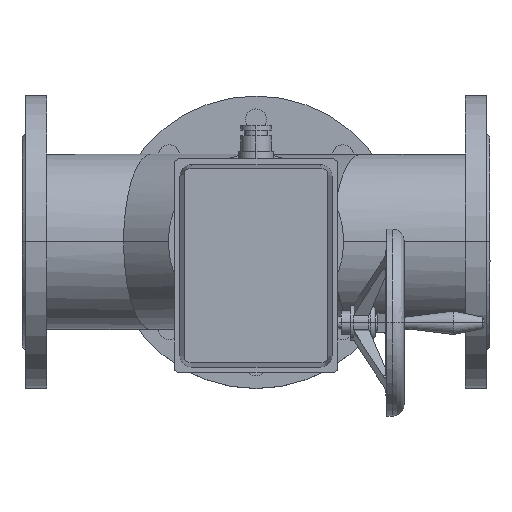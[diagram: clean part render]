
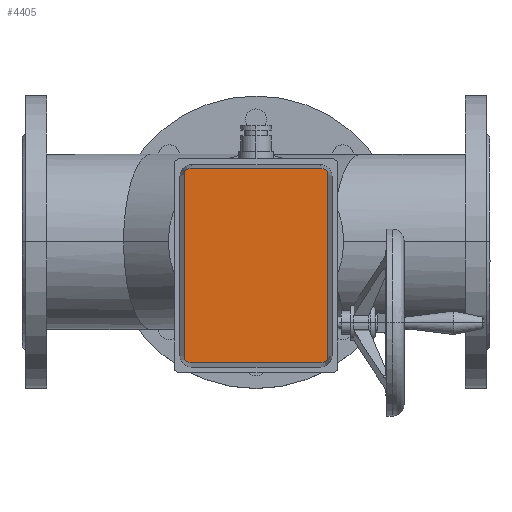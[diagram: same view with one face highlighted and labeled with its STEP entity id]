
A CAD part, top view. The second image highlights one B-rep face of the part: STEP entity #4405.
In plain terms, the highlighted planar face has unit normal (0, 0, 1).
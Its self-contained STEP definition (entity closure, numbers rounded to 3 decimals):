
#306=LINE('',#7735,#540);
#307=LINE('',#7739,#541);
#308=LINE('',#7743,#542);
#309=LINE('',#7747,#543);
#540=VECTOR('',#5903,304.8);
#541=VECTOR('',#5906,304.8);
#542=VECTOR('',#5909,304.8);
#543=VECTOR('',#5912,304.8);
#991=FACE_OUTER_BOUND('',#1305,.T.);
#1305=EDGE_LOOP('',(#3361,#3362,#3363,#3364,#3365,#3366,#3367,#3368));
#1631=CIRCLE('',#4880,5.);
#1632=CIRCLE('',#4881,5.);
#1633=CIRCLE('',#4882,5.);
#1634=CIRCLE('',#4883,5.);
#1984=VERTEX_POINT('',#7733);
#1985=VERTEX_POINT('',#7734);
#1986=VERTEX_POINT('',#7736);
#1987=VERTEX_POINT('',#7738);
#1988=VERTEX_POINT('',#7740);
#1989=VERTEX_POINT('',#7742);
#1990=VERTEX_POINT('',#7744);
#1991=VERTEX_POINT('',#7746);
#2462=EDGE_CURVE('',#1984,#1985,#306,.T.);
#2463=EDGE_CURVE('',#1985,#1986,#1631,.T.);
#2464=EDGE_CURVE('',#1986,#1987,#307,.T.);
#2465=EDGE_CURVE('',#1987,#1988,#1632,.T.);
#2466=EDGE_CURVE('',#1988,#1989,#308,.T.);
#2467=EDGE_CURVE('',#1989,#1990,#1633,.T.);
#2468=EDGE_CURVE('',#1990,#1991,#309,.T.);
#2469=EDGE_CURVE('',#1991,#1984,#1634,.T.);
#3361=ORIENTED_EDGE('',*,*,#2462,.T.);
#3362=ORIENTED_EDGE('',*,*,#2463,.T.);
#3363=ORIENTED_EDGE('',*,*,#2464,.T.);
#3364=ORIENTED_EDGE('',*,*,#2465,.T.);
#3365=ORIENTED_EDGE('',*,*,#2466,.T.);
#3366=ORIENTED_EDGE('',*,*,#2467,.T.);
#3367=ORIENTED_EDGE('',*,*,#2468,.T.);
#3368=ORIENTED_EDGE('',*,*,#2469,.T.);
#3939=PLANE('',#4879);
#4405=ADVANCED_FACE('',(#991),#3939,.T.);
#4879=AXIS2_PLACEMENT_3D('',#7732,#5901,#5902);
#4880=AXIS2_PLACEMENT_3D('',#7737,#5904,#5905);
#4881=AXIS2_PLACEMENT_3D('',#7741,#5907,#5908);
#4882=AXIS2_PLACEMENT_3D('',#7745,#5910,#5911);
#4883=AXIS2_PLACEMENT_3D('',#7748,#5913,#5914);
#5901=DIRECTION('center_axis',(0.,0.,1.));
#5902=DIRECTION('ref_axis',(0.,-1.,0.));
#5903=DIRECTION('',(0.,-1.,0.));
#5904=DIRECTION('center_axis',(0.,0.,1.));
#5905=DIRECTION('ref_axis',(1.,0.,0.));
#5906=DIRECTION('',(1.,0.,0.));
#5907=DIRECTION('center_axis',(0.,0.,1.));
#5908=DIRECTION('ref_axis',(1.,0.,0.));
#5909=DIRECTION('',(0.,1.,0.));
#5910=DIRECTION('center_axis',(0.,0.,1.));
#5911=DIRECTION('ref_axis',(1.,0.,0.));
#5912=DIRECTION('',(-1.,0.,0.));
#5913=DIRECTION('center_axis',(0.,0.,1.));
#5914=DIRECTION('ref_axis',(1.,0.,0.));
#7732=CARTESIAN_POINT('Origin',(-21.469,0.,
528.));
#7733=CARTESIAN_POINT('',(-104.36,56.4,528.));
#7734=CARTESIAN_POINT('',(-104.36,-56.4,528.));
#7735=CARTESIAN_POINT('',(-104.36,-56.4,528.));
#7736=CARTESIAN_POINT('',(-99.36,-61.4,528.));
#7737=CARTESIAN_POINT('Origin',(-99.36,-56.4,528.));
#7738=CARTESIAN_POINT('',(56.421,-61.4,528.));
#7739=CARTESIAN_POINT('',(56.421,-61.4,528.));
#7740=CARTESIAN_POINT('',(61.421,-56.4,528.));
#7741=CARTESIAN_POINT('Origin',(56.421,-56.4,528.));
#7742=CARTESIAN_POINT('',(61.421,56.4,528.));
#7743=CARTESIAN_POINT('',(61.421,56.4,528.));
#7744=CARTESIAN_POINT('',(56.421,61.4,528.));
#7745=CARTESIAN_POINT('Origin',(56.421,56.4,528.));
#7746=CARTESIAN_POINT('',(-99.36,61.4,528.));
#7747=CARTESIAN_POINT('',(-99.36,61.4,528.));
#7748=CARTESIAN_POINT('Origin',(-99.36,56.4,528.));
